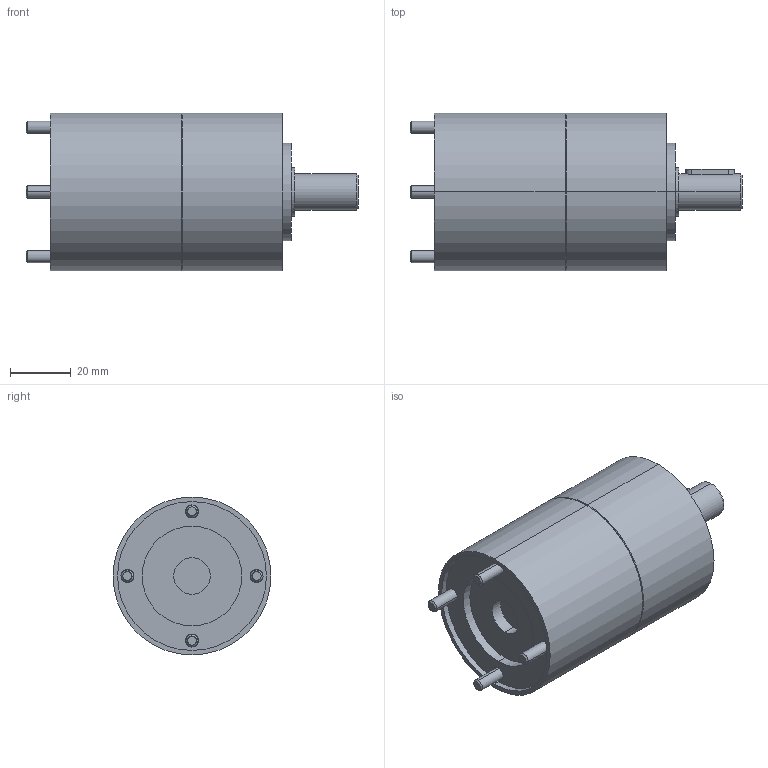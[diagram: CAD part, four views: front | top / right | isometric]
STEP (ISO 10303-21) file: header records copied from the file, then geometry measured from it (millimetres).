
FILE_DESCRIPTION (( 'STEP AP214' ), '1' );
FILE_NAME ('PM50-3stufig.STEP', '2012-09-19T12:47:56', ( ' ' ), ( '' ), 'SwSTEP 2.0', 'SolidWorks 2010', '' );
FILE_SCHEMA (( 'AUTOMOTIVE_DESIGN' ));
Length unit declared in the file: millimetre
Products named in the file (1): PM50-3stufig
Bounding box: 109.3 x 52 x 52 mm (x, y, z)
Volume: 159102.7 mm3; surface area: 28207.6 mm2
Topology: 5 solids, 5 shells, 162 faces, 342 edges, 209 vertices
Faces by surface type: cylinder 61, plane 60, cone 33, torus 8
Entity records: 5498 total; most frequent: DIRECTION 812, CARTESIAN_POINT 780, ORIENTED_EDGE 666, EDGE_CURVE 333, AXIS2_PLACEMENT_3D 319, VERTEX_POINT 209, EDGE_LOOP 190, VECTOR 174
